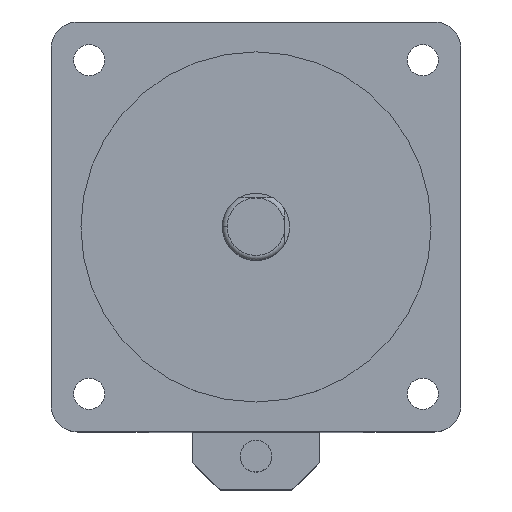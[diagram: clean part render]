
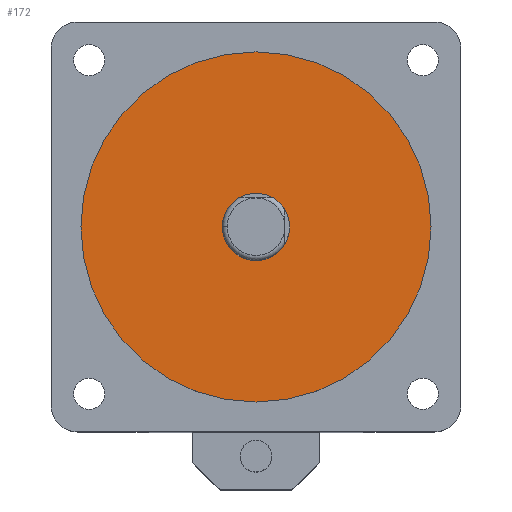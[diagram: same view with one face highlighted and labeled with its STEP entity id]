
A CAD part, top view. The second image highlights one B-rep face of the part: STEP entity #172.
In plain terms, the highlighted planar face has unit normal (0, 0, 1).
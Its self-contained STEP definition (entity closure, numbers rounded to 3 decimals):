
#172 = ADVANCED_FACE ( 'NONE', ( #2455, #1575 ), #603, .F. ) ;
#286 = DIRECTION ( 'NONE',  ( -1., 0., 0. ) ) ;
#304 = CARTESIAN_POINT ( 'NONE',  ( 7., 0., 0. ) ) ;
#354 = CIRCLE ( 'NONE', #2897, 7. ) ;
#473 = DIRECTION ( 'NONE',  ( 0., 0., -1. ) ) ;
#542 = EDGE_CURVE ( 'NONE', #2307, #1966, #2861, .T. ) ;
#603 = PLANE ( 'NONE',  #2598 ) ;
#652 = DIRECTION ( 'NONE',  ( 0., 0., -1. ) ) ;
#679 = DIRECTION ( 'NONE',  ( -1., 0., 0. ) ) ;
#692 = EDGE_CURVE ( 'NONE', #1111, #2232, #1395, .T. ) ;
#798 = CARTESIAN_POINT ( 'NONE',  ( 0., 0., 0. ) ) ;
#876 = AXIS2_PLACEMENT_3D ( 'NONE', #1123, #2292, #1586 ) ;
#916 = CARTESIAN_POINT ( 'NONE',  ( 0., 0., 0. ) ) ;
#918 = CARTESIAN_POINT ( 'NONE',  ( 0., 0., 0. ) ) ;
#1078 = CARTESIAN_POINT ( 'NONE',  ( -7., 0., 0. ) ) ;
#1111 = VERTEX_POINT ( 'NONE', #304 ) ;
#1123 = CARTESIAN_POINT ( 'NONE',  ( 0., 0., 0. ) ) ;
#1210 = ORIENTED_EDGE ( 'NONE', *, *, #692, .T. ) ;
#1227 = CIRCLE ( 'NONE', #1360, 36.513 ) ;
#1249 = DIRECTION ( 'NONE',  ( -1., 0., 0. ) ) ;
#1309 = CARTESIAN_POINT ( 'NONE',  ( 36.513, 0., 0. ) ) ;
#1360 = AXIS2_PLACEMENT_3D ( 'NONE', #918, #473, #2746 ) ;
#1395 = CIRCLE ( 'NONE', #2276, 7. ) ;
#1575 = FACE_BOUND ( 'NONE', #1607, .T. ) ;
#1586 = DIRECTION ( 'NONE',  ( -1., 0., 0. ) ) ;
#1607 = EDGE_LOOP ( 'NONE', ( #2757, #1210 ) ) ;
#1966 = VERTEX_POINT ( 'NONE', #2544 ) ;
#2041 = DIRECTION ( 'NONE',  ( 0., 0., -1. ) ) ;
#2075 = EDGE_LOOP ( 'NONE', ( #2789, #2751 ) ) ;
#2232 = VERTEX_POINT ( 'NONE', #1078 ) ;
#2276 = AXIS2_PLACEMENT_3D ( 'NONE', #2949, #652, #679 ) ;
#2292 = DIRECTION ( 'NONE',  ( 0., 0., -1. ) ) ;
#2307 = VERTEX_POINT ( 'NONE', #1309 ) ;
#2389 = DIRECTION ( 'NONE',  ( 0., 0., -1. ) ) ;
#2399 = EDGE_CURVE ( 'NONE', #1966, #2307, #1227, .T. ) ;
#2455 = FACE_OUTER_BOUND ( 'NONE', #2075, .T. ) ;
#2466 = EDGE_CURVE ( 'NONE', #2232, #1111, #354, .T. ) ;
#2544 = CARTESIAN_POINT ( 'NONE',  ( -36.513, 0., 0. ) ) ;
#2598 = AXIS2_PLACEMENT_3D ( 'NONE', #798, #2389, #1249 ) ;
#2746 = DIRECTION ( 'NONE',  ( -1., 0., 0. ) ) ;
#2751 = ORIENTED_EDGE ( 'NONE', *, *, #2399, .F. ) ;
#2757 = ORIENTED_EDGE ( 'NONE', *, *, #2466, .T. ) ;
#2789 = ORIENTED_EDGE ( 'NONE', *, *, #542, .F. ) ;
#2861 = CIRCLE ( 'NONE', #876, 36.513 ) ;
#2897 = AXIS2_PLACEMENT_3D ( 'NONE', #916, #2041, #286 ) ;
#2949 = CARTESIAN_POINT ( 'NONE',  ( 0., 0., 0. ) ) ;
